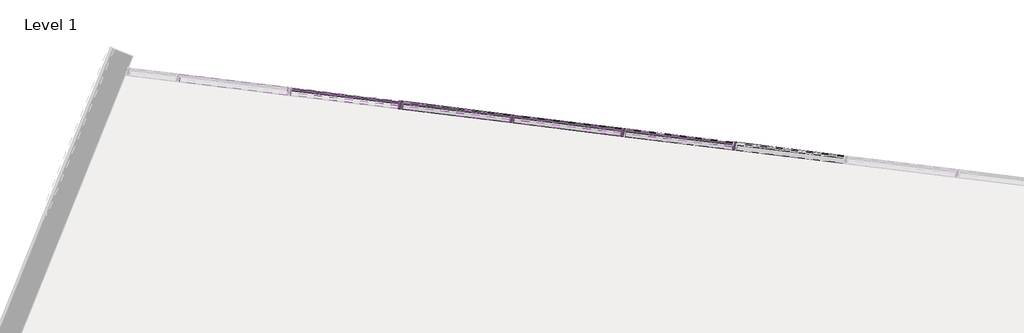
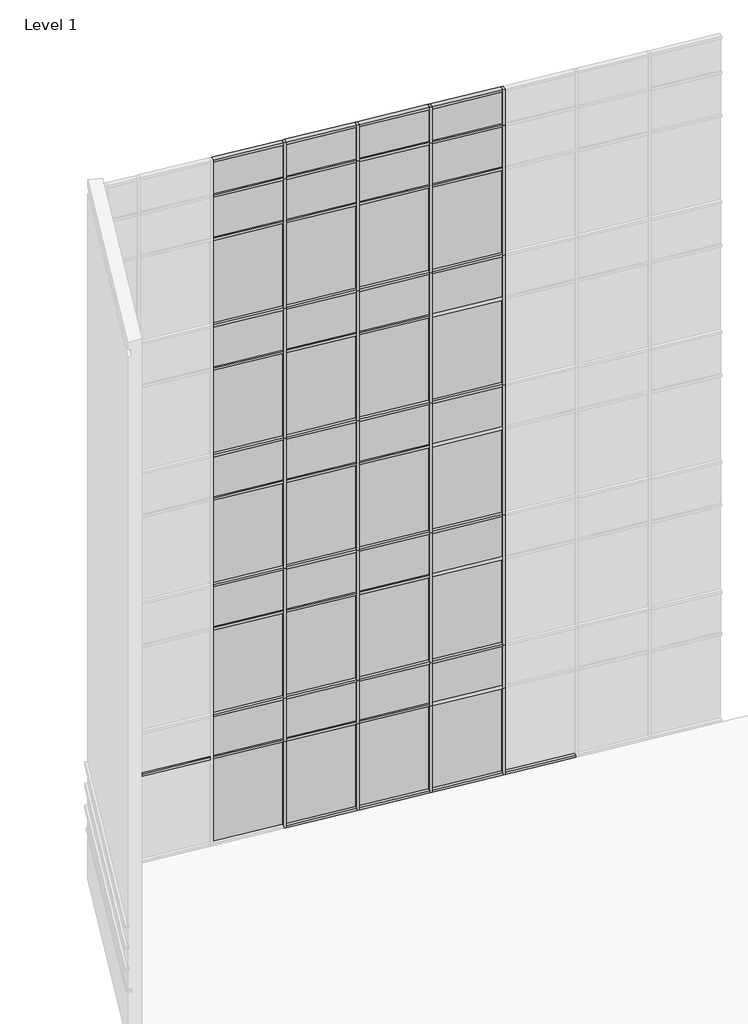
# One storey, part 16 of 23: 73 members, 44 plates.
"""IFC4 building model written with IfcOpenShell, lengths in millimetres."""

from ifc_helpers import new_model, si_unit, origin, place, context, project, spatial, transform, mapped, element, save
from components import member_2b49869a, member_f92b8aa2, member_810865a4, member_f0fea5a5, member_6d5c3e5e, member_9764dd38, system_panel_glazed_14c75400, system_panel_solid_5dfe6f83, system_panel_solid_e25e2004, system_panel_solid_b7551183

model = new_model("IFC4")

# Units and contexts
model_context = context("Model", 3, world=origin())
ifc_project = project(units=[si_unit("LENGTHUNIT", "METRE", prefix="MILLI")], contexts=[model_context])

# Site, building, storey
site = spatial("IfcSite", under=ifc_project)
building = spatial("IfcBuilding", under=site)
storey = spatial("IfcBuildingStorey", under=building, Name="Level 1", Elevation=0.0)

# Members
placement = place(None, origin())
member_shape = member_2b49869a(model_context)
element("IfcMember", 1, ObjectType="Rectangular Mullion : 2.5\" x 5\" rectangular", at=placement, inside=storey, context=model_context, shape_type="MappedRepresentation", body=[
    mapped(member_shape, transform((-20221.8467741, 14354.2917535, 2438.4), x_axis=(0.9925461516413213, -0.12186934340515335, 0.0), y_axis=(-0.12186934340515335, -0.9925461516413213, 0.0), z_axis=(0.0, 0.0, -1.0))),
])
element("IfcMember", 2, ObjectType="Rectangular Mullion : 2.5\" x 5\" rectangular", at=placement, inside=storey, context=model_context, shape_type="MappedRepresentation", body=[
    mapped(member_shape, transform((-22037.0151762, 14577.1664087, 2438.4), x_axis=(0.9925461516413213, -0.12186934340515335, 0.0), y_axis=(-0.12186934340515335, -0.9925461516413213, 0.0), z_axis=(0.0, 0.0, -1.0))),
])
element("IfcMember", 3, ObjectType="Rectangular Mullion : 2.5\" x 5\" rectangular", at=placement, inside=storey, context=model_context, shape_type="MappedRepresentation", body=[
    mapped(member_shape, transform((-23852.1835783, 14800.0410639, 2438.4), x_axis=(0.9925461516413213, -0.12186934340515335, 0.0), y_axis=(-0.12186934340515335, -0.9925461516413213, 0.0), z_axis=(0.0, 0.0, -1.0))),
])
element("IfcMember", 4, ObjectType="Rectangular Mullion : 2.5\" x 5\" rectangular", at=placement, inside=storey, context=model_context, shape_type="MappedRepresentation", body=[
    mapped(member_shape, transform((-25667.3519804, 15022.9157192, 2438.4), x_axis=(0.9925461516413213, -0.12186934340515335, 0.0), y_axis=(-0.12186934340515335, -0.9925461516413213, 0.0), z_axis=(0.0, 0.0, -1.0))),
])
member_2_shape = member_f92b8aa2(model_context)
element("IfcMember", 5, ObjectType="Rectangular Mullion : 2.5\" x 5\" rectangular", at=placement, inside=storey, context=model_context, shape_type="MappedRepresentation", body=[
    mapped(member_2_shape, transform((-20221.8467741, 14354.2917535, 18288.0), x_axis=(0.9925461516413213, -0.12186934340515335, 0.0), y_axis=(-0.12186934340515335, -0.9925461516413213, 0.0), z_axis=(0.0, 0.0, -1.0))),
])
element("IfcMember", 6, ObjectType="Rectangular Mullion : 2.5\" x 5\" rectangular", at=placement, inside=storey, context=model_context, shape_type="MappedRepresentation", body=[
    mapped(member_2_shape, transform((-22037.0151762, 14577.1664087, 18288.0), x_axis=(0.9925461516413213, -0.12186934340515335, 0.0), y_axis=(-0.12186934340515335, -0.9925461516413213, 0.0), z_axis=(0.0, 0.0, -1.0))),
])
element("IfcMember", 7, ObjectType="Rectangular Mullion : 2.5\" x 5\" rectangular", at=placement, inside=storey, context=model_context, shape_type="MappedRepresentation", body=[
    mapped(member_2_shape, transform((-23852.1835783, 14800.0410639, 18288.0), x_axis=(0.9925461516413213, -0.12186934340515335, 0.0), y_axis=(-0.12186934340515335, -0.9925461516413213, 0.0), z_axis=(0.0, 0.0, -1.0))),
])
element("IfcMember", 8, ObjectType="Rectangular Mullion : 2.5\" x 5\" rectangular", at=placement, inside=storey, context=model_context, shape_type="MappedRepresentation", body=[
    mapped(member_2_shape, transform((-25667.3519804, 15022.9157192, 18288.0), x_axis=(0.9925461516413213, -0.12186934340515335, 0.0), y_axis=(-0.12186934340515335, -0.9925461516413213, 0.0), z_axis=(0.0, 0.0, -1.0))),
])
member_3_shape = member_810865a4(model_context)
element("IfcMember", 9, ObjectType="Rectangular Mullion : 2.5\" x 5\" rectangular", at=placement, inside=storey, context=model_context, shape_type="MappedRepresentation", body=[
    mapped(member_3_shape, transform((-20221.8467741, 14354.2917535, 14630.4), x_axis=(0.9925461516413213, -0.12186934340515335, 0.0), y_axis=(-0.12186934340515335, -0.9925461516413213, 0.0), z_axis=(0.0, 0.0, -1.0))),
])
element("IfcMember", 10, ObjectType="Rectangular Mullion : 2.5\" x 5\" rectangular", at=placement, inside=storey, context=model_context, shape_type="MappedRepresentation", body=[
    mapped(member_3_shape, transform((-20221.8467741, 14354.2917535, 10972.8), x_axis=(0.9925461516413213, -0.12186934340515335, 0.0), y_axis=(-0.12186934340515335, -0.9925461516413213, 0.0), z_axis=(0.0, 0.0, -1.0))),
])
element("IfcMember", 11, ObjectType="Rectangular Mullion : 2.5\" x 5\" rectangular", at=placement, inside=storey, context=model_context, shape_type="MappedRepresentation", body=[
    mapped(member_3_shape, transform((-20221.8467741, 14354.2917535, 7315.2), x_axis=(0.9925461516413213, -0.12186934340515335, 0.0), y_axis=(-0.12186934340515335, -0.9925461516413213, 0.0), z_axis=(0.0, 0.0, -1.0))),
])
element("IfcMember", 12, ObjectType="Rectangular Mullion : 2.5\" x 5\" rectangular", at=placement, inside=storey, context=model_context, shape_type="MappedRepresentation", body=[
    mapped(member_3_shape, transform((-20221.8467741, 14354.2917535, 3657.6), x_axis=(0.9925461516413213, -0.12186934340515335, 0.0), y_axis=(-0.12186934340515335, -0.9925461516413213, 0.0), z_axis=(0.0, 0.0, -1.0))),
])
element("IfcMember", 13, ObjectType="Rectangular Mullion : 2.5\" x 5\" rectangular", at=placement, inside=storey, context=model_context, shape_type="MappedRepresentation", body=[
    mapped(member_3_shape, transform((-22037.0151762, 14577.1664087, 14630.4), x_axis=(0.9925461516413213, -0.12186934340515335, 0.0), y_axis=(-0.12186934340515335, -0.9925461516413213, 0.0), z_axis=(0.0, 0.0, -1.0))),
])
element("IfcMember", 14, ObjectType="Rectangular Mullion : 2.5\" x 5\" rectangular", at=placement, inside=storey, context=model_context, shape_type="MappedRepresentation", body=[
    mapped(member_3_shape, transform((-22037.0151762, 14577.1664087, 10972.8), x_axis=(0.9925461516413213, -0.12186934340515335, 0.0), y_axis=(-0.12186934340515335, -0.9925461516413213, 0.0), z_axis=(0.0, 0.0, -1.0))),
])
element("IfcMember", 15, ObjectType="Rectangular Mullion : 2.5\" x 5\" rectangular", at=placement, inside=storey, context=model_context, shape_type="MappedRepresentation", body=[
    mapped(member_3_shape, transform((-22037.0151762, 14577.1664087, 7315.2), x_axis=(0.9925461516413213, -0.12186934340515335, 0.0), y_axis=(-0.12186934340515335, -0.9925461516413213, 0.0), z_axis=(0.0, 0.0, -1.0))),
])
element("IfcMember", 16, ObjectType="Rectangular Mullion : 2.5\" x 5\" rectangular", at=placement, inside=storey, context=model_context, shape_type="MappedRepresentation", body=[
    mapped(member_3_shape, transform((-22037.0151762, 14577.1664087, 3657.6), x_axis=(0.9925461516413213, -0.12186934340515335, 0.0), y_axis=(-0.12186934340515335, -0.9925461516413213, 0.0), z_axis=(0.0, 0.0, -1.0))),
])
element("IfcMember", 17, ObjectType="Rectangular Mullion : 2.5\" x 5\" rectangular", at=placement, inside=storey, context=model_context, shape_type="MappedRepresentation", body=[
    mapped(member_3_shape, transform((-23852.1835783, 14800.0410639, 14630.4), x_axis=(0.9925461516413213, -0.12186934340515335, 0.0), y_axis=(-0.12186934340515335, -0.9925461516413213, 0.0), z_axis=(0.0, 0.0, -1.0))),
])
element("IfcMember", 18, ObjectType="Rectangular Mullion : 2.5\" x 5\" rectangular", at=placement, inside=storey, context=model_context, shape_type="MappedRepresentation", body=[
    mapped(member_3_shape, transform((-23852.1835783, 14800.0410639, 10972.8), x_axis=(0.9925461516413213, -0.12186934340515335, 0.0), y_axis=(-0.12186934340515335, -0.9925461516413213, 0.0), z_axis=(0.0, 0.0, -1.0))),
])
element("IfcMember", 19, ObjectType="Rectangular Mullion : 2.5\" x 5\" rectangular", at=placement, inside=storey, context=model_context, shape_type="MappedRepresentation", body=[
    mapped(member_3_shape, transform((-23852.1835783, 14800.0410639, 7315.2), x_axis=(0.9925461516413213, -0.12186934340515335, 0.0), y_axis=(-0.12186934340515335, -0.9925461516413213, 0.0), z_axis=(0.0, 0.0, -1.0))),
])
element("IfcMember", 20, ObjectType="Rectangular Mullion : 2.5\" x 5\" rectangular", at=placement, inside=storey, context=model_context, shape_type="MappedRepresentation", body=[
    mapped(member_3_shape, transform((-23852.1835783, 14800.0410639, 3657.6), x_axis=(0.9925461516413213, -0.12186934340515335, 0.0), y_axis=(-0.12186934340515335, -0.9925461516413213, 0.0), z_axis=(0.0, 0.0, -1.0))),
])
element("IfcMember", 21, ObjectType="Rectangular Mullion : 2.5\" x 5\" rectangular", at=placement, inside=storey, context=model_context, shape_type="MappedRepresentation", body=[
    mapped(member_3_shape, transform((-25667.3519804, 15022.9157192, 14630.4), x_axis=(0.9925461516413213, -0.12186934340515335, 0.0), y_axis=(-0.12186934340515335, -0.9925461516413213, 0.0), z_axis=(0.0, 0.0, -1.0))),
])
element("IfcMember", 22, ObjectType="Rectangular Mullion : 2.5\" x 5\" rectangular", at=placement, inside=storey, context=model_context, shape_type="MappedRepresentation", body=[
    mapped(member_3_shape, transform((-25667.3519804, 15022.9157192, 10972.8), x_axis=(0.9925461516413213, -0.12186934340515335, 0.0), y_axis=(-0.12186934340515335, -0.9925461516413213, 0.0), z_axis=(0.0, 0.0, -1.0))),
])
element("IfcMember", 23, ObjectType="Rectangular Mullion : 2.5\" x 5\" rectangular", at=placement, inside=storey, context=model_context, shape_type="MappedRepresentation", body=[
    mapped(member_3_shape, transform((-25667.3519804, 15022.9157192, 7315.2), x_axis=(0.9925461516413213, -0.12186934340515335, 0.0), y_axis=(-0.12186934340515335, -0.9925461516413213, 0.0), z_axis=(0.0, 0.0, -1.0))),
])
element("IfcMember", 24, ObjectType="Rectangular Mullion : 2.5\" x 5\" rectangular", at=placement, inside=storey, context=model_context, shape_type="MappedRepresentation", body=[
    mapped(member_3_shape, transform((-25667.3519804, 15022.9157192, 3657.6), x_axis=(0.9925461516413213, -0.12186934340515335, 0.0), y_axis=(-0.12186934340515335, -0.9925461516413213, 0.0), z_axis=(0.0, 0.0, -1.0))),
])
member_4_shape = member_f0fea5a5(model_context)
element("IfcMember", 25, ObjectType="Rectangular Mullion : 2.5\" x 5\" rectangular", at=placement, inside=storey, context=model_context, shape_type="MappedRepresentation", body=[
    mapped(member_4_shape, transform((-22037.0151762, 14577.1664087, 0.0), x_axis=(0.9925461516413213, -0.12186934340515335, 0.0), y_axis=(-0.12186934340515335, -0.9925461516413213, 0.0), z_axis=(0.0, 0.0, -1.0))),
])
element("IfcMember", 26, ObjectType="Rectangular Mullion : 2.5\" x 5\" rectangular", at=placement, inside=storey, context=model_context, shape_type="MappedRepresentation", body=[
    mapped(member_4_shape, transform((-23852.1835783, 14800.0410639, 0.0), x_axis=(0.9925461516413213, -0.12186934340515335, 0.0), y_axis=(-0.12186934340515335, -0.9925461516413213, 0.0), z_axis=(0.0, 0.0, -1.0))),
])
element("IfcMember", 27, ObjectType="Rectangular Mullion : 2.5\" x 5\" rectangular", at=placement, inside=storey, context=model_context, shape_type="MappedRepresentation", body=[
    mapped(member_4_shape, transform((-25667.3519804, 15022.9157192, 0.0), x_axis=(0.9925461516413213, -0.12186934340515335, 0.0), y_axis=(-0.12186934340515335, -0.9925461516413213, 0.0), z_axis=(0.0, 0.0, -1.0))),
])
element("IfcMember", 28, ObjectType="Rectangular Mullion : 2.5\" x 5\" rectangular", at=placement, inside=storey, context=model_context, shape_type="MappedRepresentation", body=[
    mapped(member_4_shape, transform((-20221.8467741, 14354.2917535, 0.0), x_axis=(0.9925461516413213, -0.12186934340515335, 0.0), y_axis=(-0.12186934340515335, -0.9925461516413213, 0.0), z_axis=(0.0, 0.0, -1.0))),
])
member_5_shape = member_6d5c3e5e(model_context)
element("IfcMember", 29, ObjectType="Rectangular Mullion : 2.5\" x 5\" rectangular", at=placement, inside=storey, context=model_context, shape_type="MappedRepresentation", body=[
    mapped(member_5_shape, transform((-20253.3601144, 14358.1611052, 19304.0), x_axis=(0.0, 0.0, 1.0), y_axis=(-0.12186934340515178, -0.9925461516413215, 0.0), z_axis=(0.9925461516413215, -0.12186934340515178, 0.0))),
])
element("IfcMember", 30, ObjectType="Rectangular Mullion : 2.5\" x 5\" rectangular", at=placement, inside=storey, context=model_context, shape_type="MappedRepresentation", body=[
    mapped(member_5_shape, transform((-22068.5285165, 14581.0357604, 19304.0), x_axis=(0.0, 0.0, 1.0), y_axis=(-0.12186934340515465, -0.9925461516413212, 0.0), z_axis=(0.9925461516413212, -0.12186934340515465, 0.0))),
])
element("IfcMember", 31, ObjectType="Rectangular Mullion : 2.5\" x 5\" rectangular", at=placement, inside=storey, context=model_context, shape_type="MappedRepresentation", body=[
    mapped(member_5_shape, transform((-23883.6969186, 14803.9104156, 19304.0), x_axis=(0.0, 0.0, 1.0), y_axis=(-0.12186934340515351, -0.9925461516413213, 0.0), z_axis=(0.9925461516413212, -0.1218693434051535, 0.0))),
])
element("IfcMember", 32, ObjectType="Rectangular Mullion : 2.5\" x 5\" rectangular", at=placement, inside=storey, context=model_context, shape_type="MappedRepresentation", body=[
    mapped(member_5_shape, transform((-25698.8653208, 15026.7850708, 19304.0), x_axis=(0.0, 0.0, 1.0), y_axis=(-0.12186934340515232, -0.9925461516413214, 0.0), z_axis=(0.9925461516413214, -0.12186934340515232, 0.0))),
])
member_6_shape = member_9764dd38(model_context)
element("IfcMember", 33, ObjectType="Rectangular Mullion : 2.5\" x 5\" rectangular", at=placement, inside=storey, context=model_context, shape_type="MappedRepresentation", body=[
    mapped(member_6_shape, transform((-20253.3601144, 14358.1611052, 17068.8), x_axis=(0.0, 0.0, 1.0), y_axis=(-0.12186934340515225, -0.9925461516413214, 0.0), z_axis=(0.9925461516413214, -0.12186934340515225, 0.0))),
])
element("IfcMember", 34, ObjectType="Rectangular Mullion : 2.5\" x 5\" rectangular", at=placement, inside=storey, context=model_context, shape_type="MappedRepresentation", body=[
    mapped(member_6_shape, transform((-22068.5285165, 14581.0357604, 17068.8), x_axis=(0.0, 0.0, 1.0), y_axis=(-0.12186934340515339, -0.9925461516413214, 0.0), z_axis=(0.9925461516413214, -0.12186934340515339, 0.0))),
])
element("IfcMember", 35, ObjectType="Rectangular Mullion : 2.5\" x 5\" rectangular", at=placement, inside=storey, context=model_context, shape_type="MappedRepresentation", body=[
    mapped(member_6_shape, transform((-23883.6969186, 14803.9104156, 17068.8), x_axis=(0.0, 0.0, 1.0), y_axis=(-0.12186934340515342, -0.9925461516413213, 0.0), z_axis=(0.9925461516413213, -0.12186934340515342, 0.0))),
])
element("IfcMember", 36, ObjectType="Rectangular Mullion : 2.5\" x 5\" rectangular", at=placement, inside=storey, context=model_context, shape_type="MappedRepresentation", body=[
    mapped(member_6_shape, transform((-25698.8653208, 15026.7850708, 17068.8), x_axis=(0.0, 0.0, 1.0), y_axis=(-0.12186934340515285, -0.9925461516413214, 0.0), z_axis=(0.9925461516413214, -0.12186934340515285, 0.0))),
])
element("IfcMember", 37, ObjectType="Rectangular Mullion : 2.5\" x 5\" rectangular", at=placement, inside=storey, context=model_context, shape_type="MappedRepresentation", body=[
    mapped(member_6_shape, transform((-22068.5285165, 14581.0357604, 13411.2), x_axis=(0.0, 0.0, 1.0), y_axis=(-0.12186934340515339, -0.9925461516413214, 0.0), z_axis=(0.9925461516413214, -0.12186934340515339, 0.0))),
])
element("IfcMember", 38, ObjectType="Rectangular Mullion : 2.5\" x 5\" rectangular", at=placement, inside=storey, context=model_context, shape_type="MappedRepresentation", body=[
    mapped(member_6_shape, transform((-23883.6969186, 14803.9104156, 13411.2), x_axis=(0.0, 0.0, 1.0), y_axis=(-0.12186934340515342, -0.9925461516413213, 0.0), z_axis=(0.9925461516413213, -0.12186934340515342, 0.0))),
])
element("IfcMember", 39, ObjectType="Rectangular Mullion : 2.5\" x 5\" rectangular", at=placement, inside=storey, context=model_context, shape_type="MappedRepresentation", body=[
    mapped(member_6_shape, transform((-25698.8653208, 15026.7850708, 13411.2), x_axis=(0.0, 0.0, 1.0), y_axis=(-0.12186934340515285, -0.9925461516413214, 0.0), z_axis=(0.9925461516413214, -0.12186934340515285, 0.0))),
])
element("IfcMember", 40, ObjectType="Rectangular Mullion : 2.5\" x 5\" rectangular", at=placement, inside=storey, context=model_context, shape_type="MappedRepresentation", body=[
    mapped(member_6_shape, transform((-22068.5285165, 14581.0357604, 9753.6), x_axis=(0.0, 0.0, 1.0), y_axis=(-0.12186934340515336, -0.9925461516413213, 0.0), z_axis=(0.9925461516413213, -0.12186934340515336, 0.0))),
])
element("IfcMember", 41, ObjectType="Rectangular Mullion : 2.5\" x 5\" rectangular", at=placement, inside=storey, context=model_context, shape_type="MappedRepresentation", body=[
    mapped(member_6_shape, transform((-23883.6969186, 14803.9104156, 9753.6), x_axis=(0.0, 0.0, 1.0), y_axis=(-0.12186934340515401, -0.9925461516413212, 0.0), z_axis=(0.9925461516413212, -0.12186934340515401, 0.0))),
])
element("IfcMember", 42, ObjectType="Rectangular Mullion : 2.5\" x 5\" rectangular", at=placement, inside=storey, context=model_context, shape_type="MappedRepresentation", body=[
    mapped(member_6_shape, transform((-25698.8653208, 15026.7850708, 9753.6), x_axis=(0.0, 0.0, 1.0), y_axis=(-0.12186934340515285, -0.9925461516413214, 0.0), z_axis=(0.9925461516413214, -0.12186934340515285, 0.0))),
])
element("IfcMember", 43, ObjectType="Rectangular Mullion : 2.5\" x 5\" rectangular", at=placement, inside=storey, context=model_context, shape_type="MappedRepresentation", body=[
    mapped(member_6_shape, transform((-22068.5285165, 14581.0357604, 6096.0), x_axis=(0.0, 0.0, 1.0), y_axis=(-0.12186934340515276, -0.9925461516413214, 0.0), z_axis=(0.9925461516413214, -0.12186934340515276, 0.0))),
])
element("IfcMember", 44, ObjectType="Rectangular Mullion : 2.5\" x 5\" rectangular", at=placement, inside=storey, context=model_context, shape_type="MappedRepresentation", body=[
    mapped(member_6_shape, transform((-23883.6969186, 14803.9104156, 6096.0), x_axis=(0.0, 0.0, 1.0), y_axis=(-0.12186934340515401, -0.9925461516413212, 0.0), z_axis=(0.9925461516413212, -0.12186934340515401, 0.0))),
])
element("IfcMember", 45, ObjectType="Rectangular Mullion : 2.5\" x 5\" rectangular", at=placement, inside=storey, context=model_context, shape_type="MappedRepresentation", body=[
    mapped(member_6_shape, transform((-25698.8653208, 15026.7850708, 6096.0), x_axis=(0.0, 0.0, 1.0), y_axis=(-0.12186934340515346, -0.9925461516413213, 0.0), z_axis=(0.9925461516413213, -0.12186934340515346, 0.0))),
])
element("IfcMember", 46, ObjectType="Rectangular Mullion : 2.5\" x 5\" rectangular", at=placement, inside=storey, context=model_context, shape_type="MappedRepresentation", body=[
    mapped(member_6_shape, transform((-22068.5285165, 14581.0357604, 2470.15), x_axis=(0.0, 0.0, 1.0), y_axis=(-0.12186934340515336, -0.9925461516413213, 0.0), z_axis=(0.9925461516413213, -0.12186934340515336, 0.0))),
])
element("IfcMember", 47, ObjectType="Rectangular Mullion : 2.5\" x 5\" rectangular", at=placement, inside=storey, context=model_context, shape_type="MappedRepresentation", body=[
    mapped(member_6_shape, transform((-23883.6969186, 14803.9104156, 2470.15), x_axis=(0.0, 0.0, 1.0), y_axis=(-0.12186934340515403, -0.9925461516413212, 0.0), z_axis=(0.9925461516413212, -0.12186934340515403, 0.0))),
])
element("IfcMember", 48, ObjectType="Rectangular Mullion : 2.5\" x 5\" rectangular", at=placement, inside=storey, context=model_context, shape_type="MappedRepresentation", body=[
    mapped(member_6_shape, transform((-25698.8653208, 15026.7850708, 2470.15), x_axis=(0.0, 0.0, 1.0), y_axis=(-0.12186934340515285, -0.9925461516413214, 0.0), z_axis=(0.9925461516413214, -0.12186934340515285, 0.0))),
])
element("IfcMember", 49, ObjectType="Rectangular Mullion : 2.5\" x 5\" rectangular", at=placement, inside=storey, context=model_context, shape_type="MappedRepresentation", body=[
    mapped(member_6_shape, transform((-27514.0337229, 15249.659726, 2470.15), x_axis=(0.0, 0.0, 1.0), y_axis=(-0.12186934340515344, -0.9925461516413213, 0.0), z_axis=(0.9925461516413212, -0.12186934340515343, 0.0))),
])
element("IfcMember", 50, ObjectType="Rectangular Mullion : 2.5\" x 5\" rectangular", at=placement, inside=storey, context=model_context, shape_type="MappedRepresentation", body=[
    mapped(member_5_shape, transform((-20190.3334338, 14350.4224018, 0.0), x_axis=(0.0, 0.0, -1.0), y_axis=(-0.12186934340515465, -0.9925461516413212, 0.0), z_axis=(-0.9925461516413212, 0.12186934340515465, 0.0))),
])
element("IfcMember", 51, ObjectType="Rectangular Mullion : 2.5\" x 5\" rectangular", at=placement, inside=storey, context=model_context, shape_type="MappedRepresentation", body=[
    mapped(member_5_shape, transform((-22005.5018359, 14573.2970571, 0.0), x_axis=(0.0, 0.0, -1.0), y_axis=(-0.12186934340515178, -0.9925461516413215, 0.0), z_axis=(-0.9925461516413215, 0.12186934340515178, 0.0))),
])
element("IfcMember", 52, ObjectType="Rectangular Mullion : 2.5\" x 5\" rectangular", at=placement, inside=storey, context=model_context, shape_type="MappedRepresentation", body=[
    mapped(member_5_shape, transform((-23820.670238, 14796.1717123, 0.0), x_axis=(0.0, 0.0, -1.0), y_axis=(-0.12186934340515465, -0.9925461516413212, 0.0), z_axis=(-0.9925461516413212, 0.12186934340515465, 0.0))),
])
element("IfcMember", 53, ObjectType="Rectangular Mullion : 2.5\" x 5\" rectangular", at=placement, inside=storey, context=model_context, shape_type="MappedRepresentation", body=[
    mapped(member_5_shape, transform((-25635.8386401, 15019.0463675, 0.0), x_axis=(0.0, 0.0, -1.0), y_axis=(-0.12186934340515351, -0.9925461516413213, 0.0), z_axis=(-0.9925461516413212, 0.1218693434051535, 0.0))),
])
element("IfcMember", 54, ObjectType="Rectangular Mullion : 2.5\" x 5\" rectangular", at=placement, inside=storey, context=model_context, shape_type="MappedRepresentation", body=[
    mapped(member_6_shape, transform((-22068.5285165, 14581.0357604, 3657.6), x_axis=(0.0, 0.0, 1.0), y_axis=(-0.12186934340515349, -0.9925461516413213, 0.0), z_axis=(0.9925461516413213, -0.12186934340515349, 0.0))),
])
element("IfcMember", 55, ObjectType="Rectangular Mullion : 2.5\" x 5\" rectangular", at=placement, inside=storey, context=model_context, shape_type="MappedRepresentation", body=[
    mapped(member_6_shape, transform((-20253.3601144, 14358.1611052, 3657.6), x_axis=(0.0, 0.0, 1.0), y_axis=(-0.12186934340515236, -0.9925461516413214, 0.0), z_axis=(0.9925461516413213, -0.12186934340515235, 0.0))),
])
element("IfcMember", 56, ObjectType="Rectangular Mullion : 2.5\" x 5\" rectangular", at=placement, inside=storey, context=model_context, shape_type="MappedRepresentation", body=[
    mapped(member_6_shape, transform((-23883.6969186, 14803.9104156, 3657.6), x_axis=(0.0, 0.0, 1.0), y_axis=(-0.12186934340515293, -0.9925461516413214, 0.0), z_axis=(0.9925461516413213, -0.12186934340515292, 0.0))),
])
element("IfcMember", 57, ObjectType="Rectangular Mullion : 2.5\" x 5\" rectangular", at=placement, inside=storey, context=model_context, shape_type="MappedRepresentation", body=[
    mapped(member_6_shape, transform((-20253.3601144, 14358.1611052, 10972.8), x_axis=(0.0, 0.0, 1.0), y_axis=(-0.12186934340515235, -0.9925461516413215, 0.0), z_axis=(0.9925461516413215, -0.12186934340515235, 0.0))),
])
element("IfcMember", 58, ObjectType="Rectangular Mullion : 2.5\" x 5\" rectangular", at=placement, inside=storey, context=model_context, shape_type="MappedRepresentation", body=[
    mapped(member_6_shape, transform((-22068.5285165, 14581.0357604, 10972.8), x_axis=(0.0, 0.0, 1.0), y_axis=(-0.12186934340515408, -0.9925461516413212, 0.0), z_axis=(0.9925461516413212, -0.12186934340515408, 0.0))),
])
element("IfcMember", 59, ObjectType="Rectangular Mullion : 2.5\" x 5\" rectangular", at=placement, inside=storey, context=model_context, shape_type="MappedRepresentation", body=[
    mapped(member_6_shape, transform((-23883.6969186, 14803.9104156, 10972.8), x_axis=(0.0, 0.0, 1.0), y_axis=(-0.12186934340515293, -0.9925461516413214, 0.0), z_axis=(0.9925461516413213, -0.12186934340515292, 0.0))),
])
element("IfcMember", 60, ObjectType="Rectangular Mullion : 2.5\" x 5\" rectangular", at=placement, inside=storey, context=model_context, shape_type="MappedRepresentation", body=[
    mapped(member_6_shape, transform((-25698.8653208, 15026.7850708, 10972.8), x_axis=(0.0, 0.0, 1.0), y_axis=(-0.12186934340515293, -0.9925461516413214, 0.0), z_axis=(0.9925461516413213, -0.12186934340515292, 0.0))),
])
element("IfcMember", 61, ObjectType="Rectangular Mullion : 2.5\" x 5\" rectangular", at=placement, inside=storey, context=model_context, shape_type="MappedRepresentation", body=[
    mapped(member_6_shape, transform((-20253.3601144, 14358.1611052, 7315.2), x_axis=(0.0, 0.0, 1.0), y_axis=(-0.12186934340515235, -0.9925461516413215, 0.0), z_axis=(0.9925461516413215, -0.12186934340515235, 0.0))),
])
element("IfcMember", 62, ObjectType="Rectangular Mullion : 2.5\" x 5\" rectangular", at=placement, inside=storey, context=model_context, shape_type="MappedRepresentation", body=[
    mapped(member_6_shape, transform((-22068.5285165, 14581.0357604, 7315.2), x_axis=(0.0, 0.0, 1.0), y_axis=(-0.12186934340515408, -0.9925461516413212, 0.0), z_axis=(0.9925461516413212, -0.12186934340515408, 0.0))),
])
element("IfcMember", 63, ObjectType="Rectangular Mullion : 2.5\" x 5\" rectangular", at=placement, inside=storey, context=model_context, shape_type="MappedRepresentation", body=[
    mapped(member_6_shape, transform((-23883.6969186, 14803.9104156, 7315.2), x_axis=(0.0, 0.0, 1.0), y_axis=(-0.12186934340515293, -0.9925461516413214, 0.0), z_axis=(0.9925461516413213, -0.12186934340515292, 0.0))),
])
element("IfcMember", 64, ObjectType="Rectangular Mullion : 2.5\" x 5\" rectangular", at=placement, inside=storey, context=model_context, shape_type="MappedRepresentation", body=[
    mapped(member_6_shape, transform((-25698.8653208, 15026.7850708, 7315.2), x_axis=(0.0, 0.0, 1.0), y_axis=(-0.12186934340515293, -0.9925461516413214, 0.0), z_axis=(0.9925461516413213, -0.12186934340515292, 0.0))),
])
element("IfcMember", 65, ObjectType="Rectangular Mullion : 2.5\" x 5\" rectangular", at=placement, inside=storey, context=model_context, shape_type="MappedRepresentation", body=[
    mapped(member_6_shape, transform((-20253.3601144, 14358.1611052, 18288.0), x_axis=(0.0, 0.0, 1.0), y_axis=(-0.12186934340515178, -0.9925461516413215, 0.0), z_axis=(0.9925461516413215, -0.12186934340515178, 0.0))),
])
element("IfcMember", 66, ObjectType="Rectangular Mullion : 2.5\" x 5\" rectangular", at=placement, inside=storey, context=model_context, shape_type="MappedRepresentation", body=[
    mapped(member_6_shape, transform((-22068.5285165, 14581.0357604, 18288.0), x_axis=(0.0, 0.0, 1.0), y_axis=(-0.12186934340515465, -0.9925461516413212, 0.0), z_axis=(0.9925461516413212, -0.12186934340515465, 0.0))),
])
element("IfcMember", 67, ObjectType="Rectangular Mullion : 2.5\" x 5\" rectangular", at=placement, inside=storey, context=model_context, shape_type="MappedRepresentation", body=[
    mapped(member_6_shape, transform((-23883.6969186, 14803.9104156, 18288.0), x_axis=(0.0, 0.0, 1.0), y_axis=(-0.12186934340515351, -0.9925461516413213, 0.0), z_axis=(0.9925461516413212, -0.1218693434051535, 0.0))),
])
element("IfcMember", 68, ObjectType="Rectangular Mullion : 2.5\" x 5\" rectangular", at=placement, inside=storey, context=model_context, shape_type="MappedRepresentation", body=[
    mapped(member_6_shape, transform((-25698.8653208, 15026.7850708, 18288.0), x_axis=(0.0, 0.0, 1.0), y_axis=(-0.12186934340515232, -0.9925461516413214, 0.0), z_axis=(0.9925461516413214, -0.12186934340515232, 0.0))),
])
element("IfcMember", 69, ObjectType="Rectangular Mullion : 2.5\" x 5\" rectangular", at=placement, inside=storey, context=model_context, shape_type="MappedRepresentation", body=[
    mapped(member_6_shape, transform((-20253.3601144, 14358.1611052, 14630.4), x_axis=(0.0, 0.0, 1.0), y_axis=(-0.12186934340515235, -0.9925461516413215, 0.0), z_axis=(0.9925461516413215, -0.12186934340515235, 0.0))),
])
element("IfcMember", 70, ObjectType="Rectangular Mullion : 2.5\" x 5\" rectangular", at=placement, inside=storey, context=model_context, shape_type="MappedRepresentation", body=[
    mapped(member_6_shape, transform((-22068.5285165, 14581.0357604, 14630.4), x_axis=(0.0, 0.0, 1.0), y_axis=(-0.12186934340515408, -0.9925461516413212, 0.0), z_axis=(0.9925461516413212, -0.12186934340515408, 0.0))),
])
element("IfcMember", 71, ObjectType="Rectangular Mullion : 2.5\" x 5\" rectangular", at=placement, inside=storey, context=model_context, shape_type="MappedRepresentation", body=[
    mapped(member_6_shape, transform((-23883.6969186, 14803.9104156, 14630.4), x_axis=(0.0, 0.0, 1.0), y_axis=(-0.12186934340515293, -0.9925461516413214, 0.0), z_axis=(0.9925461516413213, -0.12186934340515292, 0.0))),
])
element("IfcMember", 72, ObjectType="Rectangular Mullion : 2.5\" x 5\" rectangular", at=placement, inside=storey, context=model_context, shape_type="MappedRepresentation", body=[
    mapped(member_6_shape, transform((-25698.8653208, 15026.7850708, 14630.4), x_axis=(0.0, 0.0, 1.0), y_axis=(-0.12186934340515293, -0.9925461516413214, 0.0), z_axis=(0.9925461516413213, -0.12186934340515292, 0.0))),
])
element("IfcMember", 73, ObjectType="Rectangular Mullion : 2.5\" x 5\" rectangular", at=placement, inside=storey, context=model_context, shape_type="MappedRepresentation", body=[
    mapped(member_6_shape, transform((-25698.8653208, 15026.7850708, 3657.6), x_axis=(0.0, 0.0, 1.0), y_axis=(-0.12186934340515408, -0.9925461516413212, 0.0), z_axis=(0.9925461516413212, -0.12186934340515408, 0.0))),
])

# Plates
system_panel_glazed_shape = system_panel_glazed_14c75400(model_context)
element("IfcPlate", 74, ObjectType="System Panel : Glazed", at=placement, inside=storey, context=model_context, shape_type="MappedRepresentation", body=[
    mapped(system_panel_glazed_shape, transform((-21129.4309751, 14465.7290811, 14662.15), x_axis=(0.9925461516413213, -0.12186934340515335, 0.0), y_axis=(0.12186934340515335, 0.9925461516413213, 0.0), z_axis=(0.0, 0.0, 1.0))),
])
element("IfcPlate", 75, ObjectType="System Panel : Glazed", at=placement, inside=storey, context=model_context, shape_type="MappedRepresentation", body=[
    mapped(system_panel_glazed_shape, transform((-22944.5993773, 14688.6037363, 14662.15), x_axis=(0.9925461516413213, -0.12186934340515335, 0.0), y_axis=(0.12186934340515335, 0.9925461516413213, 0.0), z_axis=(0.0, 0.0, 1.0))),
])
element("IfcPlate", 76, ObjectType="System Panel : Glazed", at=placement, inside=storey, context=model_context, shape_type="MappedRepresentation", body=[
    mapped(system_panel_glazed_shape, transform((-24759.7677794, 14911.4783915, 14662.15), x_axis=(0.9925461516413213, -0.12186934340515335, 0.0), y_axis=(0.12186934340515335, 0.9925461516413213, 0.0), z_axis=(0.0, 0.0, 1.0))),
])
element("IfcPlate", 77, ObjectType="System Panel : Glazed", at=placement, inside=storey, context=model_context, shape_type="MappedRepresentation", body=[
    mapped(system_panel_glazed_shape, transform((-26574.9361815, 15134.3530468, 14662.15), x_axis=(0.9925461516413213, -0.12186934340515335, 0.0), y_axis=(0.12186934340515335, 0.9925461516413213, 0.0), z_axis=(0.0, 0.0, 1.0))),
])
element("IfcPlate", 78, ObjectType="System Panel : Glazed", at=placement, inside=storey, context=model_context, shape_type="MappedRepresentation", body=[
    mapped(system_panel_glazed_shape, transform((-21129.4309751, 14465.7290811, 11004.55), x_axis=(0.9925461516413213, -0.12186934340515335, 0.0), y_axis=(0.12186934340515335, 0.9925461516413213, 0.0), z_axis=(0.0, 0.0, 1.0))),
])
element("IfcPlate", 79, ObjectType="System Panel : Glazed", at=placement, inside=storey, context=model_context, shape_type="MappedRepresentation", body=[
    mapped(system_panel_glazed_shape, transform((-22944.5993773, 14688.6037363, 11004.55), x_axis=(0.9925461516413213, -0.12186934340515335, 0.0), y_axis=(0.12186934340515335, 0.9925461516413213, 0.0), z_axis=(0.0, 0.0, 1.0))),
])
element("IfcPlate", 80, ObjectType="System Panel : Glazed", at=placement, inside=storey, context=model_context, shape_type="MappedRepresentation", body=[
    mapped(system_panel_glazed_shape, transform((-24759.7677794, 14911.4783915, 11004.55), x_axis=(0.9925461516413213, -0.12186934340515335, 0.0), y_axis=(0.12186934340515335, 0.9925461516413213, 0.0), z_axis=(0.0, 0.0, 1.0))),
])
element("IfcPlate", 81, ObjectType="System Panel : Glazed", at=placement, inside=storey, context=model_context, shape_type="MappedRepresentation", body=[
    mapped(system_panel_glazed_shape, transform((-26574.9361815, 15134.3530468, 11004.55), x_axis=(0.9925461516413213, -0.12186934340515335, 0.0), y_axis=(0.12186934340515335, 0.9925461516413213, 0.0), z_axis=(0.0, 0.0, 1.0))),
])
element("IfcPlate", 82, ObjectType="System Panel : Glazed", at=placement, inside=storey, context=model_context, shape_type="MappedRepresentation", body=[
    mapped(system_panel_glazed_shape, transform((-21129.4309751, 14465.7290811, 7346.95), x_axis=(0.9925461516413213, -0.12186934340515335, 0.0), y_axis=(0.12186934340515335, 0.9925461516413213, 0.0), z_axis=(0.0, 0.0, 1.0))),
])
element("IfcPlate", 83, ObjectType="System Panel : Glazed", at=placement, inside=storey, context=model_context, shape_type="MappedRepresentation", body=[
    mapped(system_panel_glazed_shape, transform((-22944.5993773, 14688.6037363, 7346.95), x_axis=(0.9925461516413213, -0.12186934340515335, 0.0), y_axis=(0.12186934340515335, 0.9925461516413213, 0.0), z_axis=(0.0, 0.0, 1.0))),
])
element("IfcPlate", 84, ObjectType="System Panel : Glazed", at=placement, inside=storey, context=model_context, shape_type="MappedRepresentation", body=[
    mapped(system_panel_glazed_shape, transform((-24759.7677794, 14911.4783915, 7346.95), x_axis=(0.9925461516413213, -0.12186934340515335, 0.0), y_axis=(0.12186934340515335, 0.9925461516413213, 0.0), z_axis=(0.0, 0.0, 1.0))),
])
element("IfcPlate", 85, ObjectType="System Panel : Glazed", at=placement, inside=storey, context=model_context, shape_type="MappedRepresentation", body=[
    mapped(system_panel_glazed_shape, transform((-26574.9361815, 15134.3530468, 7346.95), x_axis=(0.9925461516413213, -0.12186934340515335, 0.0), y_axis=(0.12186934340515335, 0.9925461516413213, 0.0), z_axis=(0.0, 0.0, 1.0))),
])
element("IfcPlate", 86, ObjectType="System Panel : Glazed", at=placement, inside=storey, context=model_context, shape_type="MappedRepresentation", body=[
    mapped(system_panel_glazed_shape, transform((-21129.4309751, 14465.7290811, 3689.35), x_axis=(0.9925461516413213, -0.12186934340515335, 0.0), y_axis=(0.12186934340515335, 0.9925461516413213, 0.0), z_axis=(0.0, 0.0, 1.0))),
])
element("IfcPlate", 87, ObjectType="System Panel : Glazed", at=placement, inside=storey, context=model_context, shape_type="MappedRepresentation", body=[
    mapped(system_panel_glazed_shape, transform((-22944.5993773, 14688.6037363, 3689.35), x_axis=(0.9925461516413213, -0.12186934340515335, 0.0), y_axis=(0.12186934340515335, 0.9925461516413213, 0.0), z_axis=(0.0, 0.0, 1.0))),
])
element("IfcPlate", 88, ObjectType="System Panel : Glazed", at=placement, inside=storey, context=model_context, shape_type="MappedRepresentation", body=[
    mapped(system_panel_glazed_shape, transform((-24759.7677794, 14911.4783915, 3689.35), x_axis=(0.9925461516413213, -0.12186934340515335, 0.0), y_axis=(0.12186934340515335, 0.9925461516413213, 0.0), z_axis=(0.0, 0.0, 1.0))),
])
element("IfcPlate", 89, ObjectType="System Panel : Glazed", at=placement, inside=storey, context=model_context, shape_type="MappedRepresentation", body=[
    mapped(system_panel_glazed_shape, transform((-26574.9361815, 15134.3530468, 3689.35), x_axis=(0.9925461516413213, -0.12186934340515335, 0.0), y_axis=(0.12186934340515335, 0.9925461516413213, 0.0), z_axis=(0.0, 0.0, 1.0))),
])
element("IfcPlate", 90, ObjectType="System Panel : Glazed", at=placement, inside=storey, context=model_context, shape_type="MappedRepresentation", body=[
    mapped(system_panel_glazed_shape, transform((-21129.4309751, 14465.7290811, 63.5), x_axis=(0.9925461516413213, -0.12186934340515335, 0.0), y_axis=(0.12186934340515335, 0.9925461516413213, 0.0), z_axis=(0.0, 0.0, 1.0))),
])
element("IfcPlate", 91, ObjectType="System Panel : Glazed", at=placement, inside=storey, context=model_context, shape_type="MappedRepresentation", body=[
    mapped(system_panel_glazed_shape, transform((-22944.5993773, 14688.6037363, 63.5), x_axis=(0.9925461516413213, -0.12186934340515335, 0.0), y_axis=(0.12186934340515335, 0.9925461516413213, 0.0), z_axis=(0.0, 0.0, 1.0))),
])
element("IfcPlate", 92, ObjectType="System Panel : Glazed", at=placement, inside=storey, context=model_context, shape_type="MappedRepresentation", body=[
    mapped(system_panel_glazed_shape, transform((-24759.7677794, 14911.4783915, 63.5), x_axis=(0.9925461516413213, -0.12186934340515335, 0.0), y_axis=(0.12186934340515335, 0.9925461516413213, 0.0), z_axis=(0.0, 0.0, 1.0))),
])
element("IfcPlate", 93, ObjectType="System Panel : Glazed", at=placement, inside=storey, context=model_context, shape_type="MappedRepresentation", body=[
    mapped(system_panel_glazed_shape, transform((-26574.9361815, 15134.3530468, 63.5), x_axis=(0.9925461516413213, -0.12186934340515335, 0.0), y_axis=(0.12186934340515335, 0.9925461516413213, 0.0), z_axis=(0.0, 0.0, 1.0))),
])
system_panel_solid_shape = system_panel_solid_5dfe6f83(model_context)
element("IfcPlate", 94, ObjectType="System Panel : Solid", at=placement, inside=storey, context=model_context, shape_type="MappedRepresentation", body=[
    mapped(system_panel_solid_shape, transform((-26574.9361815, 15134.3530468, 18319.75), x_axis=(0.9925461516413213, -0.12186934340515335, 0.0), y_axis=(0.12186934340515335, 0.9925461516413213, 0.0), z_axis=(0.0, 0.0, 1.0))),
])
element("IfcPlate", 95, ObjectType="System Panel : Solid", at=placement, inside=storey, context=model_context, shape_type="MappedRepresentation", body=[
    mapped(system_panel_solid_shape, transform((-24759.7677794, 14911.4783915, 18319.75), x_axis=(0.9925461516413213, -0.12186934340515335, 0.0), y_axis=(0.12186934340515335, 0.9925461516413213, 0.0), z_axis=(0.0, 0.0, 1.0))),
])
element("IfcPlate", 96, ObjectType="System Panel : Solid", at=placement, inside=storey, context=model_context, shape_type="MappedRepresentation", body=[
    mapped(system_panel_solid_shape, transform((-22944.5993773, 14688.6037363, 18319.75), x_axis=(0.9925461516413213, -0.12186934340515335, 0.0), y_axis=(0.12186934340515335, 0.9925461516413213, 0.0), z_axis=(0.0, 0.0, 1.0))),
])
element("IfcPlate", 97, ObjectType="System Panel : Solid", at=placement, inside=storey, context=model_context, shape_type="MappedRepresentation", body=[
    mapped(system_panel_solid_shape, transform((-21129.4309751, 14465.7290811, 18319.75), x_axis=(0.9925461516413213, -0.12186934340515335, 0.0), y_axis=(0.12186934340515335, 0.9925461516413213, 0.0), z_axis=(0.0, 0.0, 1.0))),
])
system_panel_solid_2_shape = system_panel_solid_e25e2004(model_context)
element("IfcPlate", 98, ObjectType="System Panel : Solid", at=placement, inside=storey, context=model_context, shape_type="MappedRepresentation", body=[
    mapped(system_panel_solid_2_shape, transform((-21129.4309751, 14465.7290811, 17100.55), x_axis=(0.9925461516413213, -0.12186934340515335, 0.0), y_axis=(0.12186934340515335, 0.9925461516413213, 0.0), z_axis=(0.0, 0.0, 1.0))),
])
element("IfcPlate", 99, ObjectType="System Panel : Solid", at=placement, inside=storey, context=model_context, shape_type="MappedRepresentation", body=[
    mapped(system_panel_solid_2_shape, transform((-22944.5993773, 14688.6037363, 17100.55), x_axis=(0.9925461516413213, -0.12186934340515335, 0.0), y_axis=(0.12186934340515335, 0.9925461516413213, 0.0), z_axis=(0.0, 0.0, 1.0))),
])
element("IfcPlate", 100, ObjectType="System Panel : Solid", at=placement, inside=storey, context=model_context, shape_type="MappedRepresentation", body=[
    mapped(system_panel_solid_2_shape, transform((-24759.7677794, 14911.4783915, 17100.55), x_axis=(0.9925461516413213, -0.12186934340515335, 0.0), y_axis=(0.12186934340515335, 0.9925461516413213, 0.0), z_axis=(0.0, 0.0, 1.0))),
])
element("IfcPlate", 101, ObjectType="System Panel : Solid", at=placement, inside=storey, context=model_context, shape_type="MappedRepresentation", body=[
    mapped(system_panel_solid_2_shape, transform((-26574.9361815, 15134.3530468, 17100.55), x_axis=(0.9925461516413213, -0.12186934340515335, 0.0), y_axis=(0.12186934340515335, 0.9925461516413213, 0.0), z_axis=(0.0, 0.0, 1.0))),
])
element("IfcPlate", 102, ObjectType="System Panel : Solid", at=placement, inside=storey, context=model_context, shape_type="MappedRepresentation", body=[
    mapped(system_panel_solid_2_shape, transform((-21129.4309751, 14465.7290811, 13442.95), x_axis=(0.9925461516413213, -0.12186934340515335, 0.0), y_axis=(0.12186934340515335, 0.9925461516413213, 0.0), z_axis=(0.0, 0.0, 1.0))),
])
element("IfcPlate", 103, ObjectType="System Panel : Solid", at=placement, inside=storey, context=model_context, shape_type="MappedRepresentation", body=[
    mapped(system_panel_solid_2_shape, transform((-22944.5993773, 14688.6037363, 13442.95), x_axis=(0.9925461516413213, -0.12186934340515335, 0.0), y_axis=(0.12186934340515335, 0.9925461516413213, 0.0), z_axis=(0.0, 0.0, 1.0))),
])
element("IfcPlate", 104, ObjectType="System Panel : Solid", at=placement, inside=storey, context=model_context, shape_type="MappedRepresentation", body=[
    mapped(system_panel_solid_2_shape, transform((-24759.7677794, 14911.4783915, 13442.95), x_axis=(0.9925461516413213, -0.12186934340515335, 0.0), y_axis=(0.12186934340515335, 0.9925461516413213, 0.0), z_axis=(0.0, 0.0, 1.0))),
])
element("IfcPlate", 105, ObjectType="System Panel : Solid", at=placement, inside=storey, context=model_context, shape_type="MappedRepresentation", body=[
    mapped(system_panel_solid_2_shape, transform((-26574.9361815, 15134.3530468, 13442.95), x_axis=(0.9925461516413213, -0.12186934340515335, 0.0), y_axis=(0.12186934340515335, 0.9925461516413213, 0.0), z_axis=(0.0, 0.0, 1.0))),
])
element("IfcPlate", 106, ObjectType="System Panel : Solid", at=placement, inside=storey, context=model_context, shape_type="MappedRepresentation", body=[
    mapped(system_panel_solid_2_shape, transform((-21129.4309751, 14465.7290811, 9785.35), x_axis=(0.9925461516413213, -0.12186934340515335, 0.0), y_axis=(0.12186934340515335, 0.9925461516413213, 0.0), z_axis=(0.0, 0.0, 1.0))),
])
element("IfcPlate", 107, ObjectType="System Panel : Solid", at=placement, inside=storey, context=model_context, shape_type="MappedRepresentation", body=[
    mapped(system_panel_solid_2_shape, transform((-22944.5993773, 14688.6037363, 9785.35), x_axis=(0.9925461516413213, -0.12186934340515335, 0.0), y_axis=(0.12186934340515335, 0.9925461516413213, 0.0), z_axis=(0.0, 0.0, 1.0))),
])
element("IfcPlate", 108, ObjectType="System Panel : Solid", at=placement, inside=storey, context=model_context, shape_type="MappedRepresentation", body=[
    mapped(system_panel_solid_2_shape, transform((-24759.7677794, 14911.4783915, 9785.35), x_axis=(0.9925461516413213, -0.12186934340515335, 0.0), y_axis=(0.12186934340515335, 0.9925461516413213, 0.0), z_axis=(0.0, 0.0, 1.0))),
])
element("IfcPlate", 109, ObjectType="System Panel : Solid", at=placement, inside=storey, context=model_context, shape_type="MappedRepresentation", body=[
    mapped(system_panel_solid_2_shape, transform((-26574.9361815, 15134.3530468, 9785.35), x_axis=(0.9925461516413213, -0.12186934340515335, 0.0), y_axis=(0.12186934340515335, 0.9925461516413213, 0.0), z_axis=(0.0, 0.0, 1.0))),
])
element("IfcPlate", 110, ObjectType="System Panel : Solid", at=placement, inside=storey, context=model_context, shape_type="MappedRepresentation", body=[
    mapped(system_panel_solid_2_shape, transform((-21129.4309751, 14465.7290811, 6127.75), x_axis=(0.9925461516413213, -0.12186934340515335, 0.0), y_axis=(0.12186934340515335, 0.9925461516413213, 0.0), z_axis=(0.0, 0.0, 1.0))),
])
element("IfcPlate", 111, ObjectType="System Panel : Solid", at=placement, inside=storey, context=model_context, shape_type="MappedRepresentation", body=[
    mapped(system_panel_solid_2_shape, transform((-22944.5993773, 14688.6037363, 6127.75), x_axis=(0.9925461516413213, -0.12186934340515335, 0.0), y_axis=(0.12186934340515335, 0.9925461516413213, 0.0), z_axis=(0.0, 0.0, 1.0))),
])
element("IfcPlate", 112, ObjectType="System Panel : Solid", at=placement, inside=storey, context=model_context, shape_type="MappedRepresentation", body=[
    mapped(system_panel_solid_2_shape, transform((-24759.7677794, 14911.4783915, 6127.75), x_axis=(0.9925461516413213, -0.12186934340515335, 0.0), y_axis=(0.12186934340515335, 0.9925461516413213, 0.0), z_axis=(0.0, 0.0, 1.0))),
])
element("IfcPlate", 113, ObjectType="System Panel : Solid", at=placement, inside=storey, context=model_context, shape_type="MappedRepresentation", body=[
    mapped(system_panel_solid_2_shape, transform((-26574.9361815, 15134.3530468, 6127.75), x_axis=(0.9925461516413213, -0.12186934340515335, 0.0), y_axis=(0.12186934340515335, 0.9925461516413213, 0.0), z_axis=(0.0, 0.0, 1.0))),
])
system_panel_solid_3_shape = system_panel_solid_b7551183(model_context)
element("IfcPlate", 114, ObjectType="System Panel : Solid", at=placement, inside=storey, context=model_context, shape_type="MappedRepresentation", body=[
    mapped(system_panel_solid_3_shape, transform((-21129.4309751, 14465.7290811, 2501.9), x_axis=(0.9925461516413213, -0.12186934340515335, 0.0), y_axis=(0.12186934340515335, 0.9925461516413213, 0.0), z_axis=(0.0, 0.0, 1.0))),
])
element("IfcPlate", 115, ObjectType="System Panel : Solid", at=placement, inside=storey, context=model_context, shape_type="MappedRepresentation", body=[
    mapped(system_panel_solid_3_shape, transform((-22944.5993773, 14688.6037363, 2501.9), x_axis=(0.9925461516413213, -0.12186934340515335, 0.0), y_axis=(0.12186934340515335, 0.9925461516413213, 0.0), z_axis=(0.0, 0.0, 1.0))),
])
element("IfcPlate", 116, ObjectType="System Panel : Solid", at=placement, inside=storey, context=model_context, shape_type="MappedRepresentation", body=[
    mapped(system_panel_solid_3_shape, transform((-24759.7677794, 14911.4783915, 2501.9), x_axis=(0.9925461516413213, -0.12186934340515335, 0.0), y_axis=(0.12186934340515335, 0.9925461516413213, 0.0), z_axis=(0.0, 0.0, 1.0))),
])
element("IfcPlate", 117, ObjectType="System Panel : Solid", at=placement, inside=storey, context=model_context, shape_type="MappedRepresentation", body=[
    mapped(system_panel_solid_3_shape, transform((-26574.9361815, 15134.3530468, 2501.9), x_axis=(0.9925461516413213, -0.12186934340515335, 0.0), y_axis=(0.12186934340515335, 0.9925461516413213, 0.0), z_axis=(0.0, 0.0, 1.0))),
])

save(model, "model.ifc")
